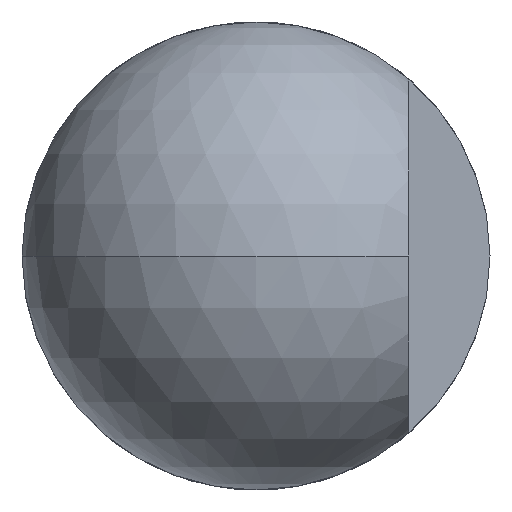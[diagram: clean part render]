
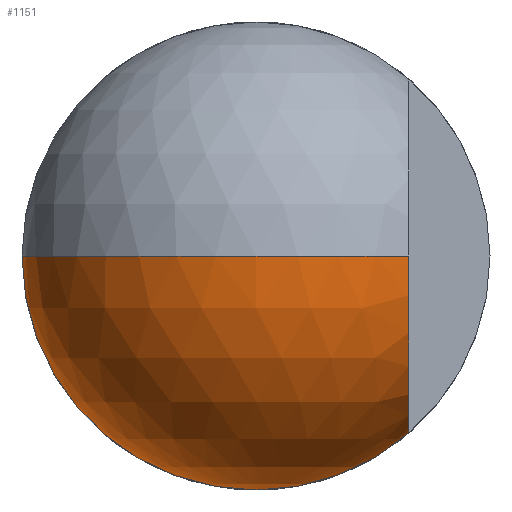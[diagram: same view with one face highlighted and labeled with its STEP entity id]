
A CAD part, front view. The second image highlights one B-rep face of the part: STEP entity #1151.
In plain terms, the highlighted spherical face has radius 6.35 mm.
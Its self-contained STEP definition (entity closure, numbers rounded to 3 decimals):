
#89 = EDGE_CURVE ( 'NONE', #1656, #816, #3098, .T. ) ;
#237 = DIRECTION ( 'NONE',  ( 0., -1., 0. ) ) ;
#371 = ORIENTED_EDGE ( 'NONE', *, *, #2748, .T. ) ;
#445 = EDGE_CURVE ( 'NONE', #861, #1607, #609, .T. ) ;
#483 = EDGE_CURVE ( 'NONE', #1607, #1656, #2835, .T. ) ;
#487 = DIRECTION ( 'NONE',  ( 0., 0., -1. ) ) ;
#507 = DIRECTION ( 'NONE',  ( 1., 0., 0. ) ) ;
#527 = AXIS2_PLACEMENT_3D ( 'NONE', #1936, #237, #487 ) ;
#562 = AXIS2_PLACEMENT_3D ( 'NONE', #2445, #3113, #507 ) ;
#609 = CIRCLE ( 'NONE', #1275, 4.806 ) ;
#756 = CARTESIAN_POINT ( 'NONE',  ( -4.15, 4.806, 78.65 ) ) ;
#757 = FACE_OUTER_BOUND ( 'NONE', #831, .T. ) ;
#766 = CARTESIAN_POINT ( 'NONE',  ( 0., 0., 78.65 ) ) ;
#816 = VERTEX_POINT ( 'NONE', #3118 ) ;
#831 = EDGE_LOOP ( 'NONE', ( #1650, #371, #2429, #2106 ) ) ;
#861 = VERTEX_POINT ( 'NONE', #2172 ) ;
#873 = AXIS2_PLACEMENT_3D ( 'NONE', #1344, #1155, #2309 ) ;
#1151 = ADVANCED_FACE ( 'NONE', ( #757 ), #2690, .T. ) ;
#1155 = DIRECTION ( 'NONE',  ( 0., 1., 0. ) ) ;
#1275 = AXIS2_PLACEMENT_3D ( 'NONE', #2906, #2681, #2240 ) ;
#1300 = CARTESIAN_POINT ( 'NONE',  ( 6.35, 0., 78.65 ) ) ;
#1344 = CARTESIAN_POINT ( 'NONE',  ( 0., 0., 78.65 ) ) ;
#1453 = CIRCLE ( 'NONE', #873, 6.35 ) ;
#1486 = AXIS2_PLACEMENT_3D ( 'NONE', #766, #2422, #1738 ) ;
#1607 = VERTEX_POINT ( 'NONE', #756 ) ;
#1650 = ORIENTED_EDGE ( 'NONE', *, *, #445, .F. ) ;
#1656 = VERTEX_POINT ( 'NONE', #1300 ) ;
#1738 = DIRECTION ( 'NONE',  ( -1., 0., 0. ) ) ;
#1936 = CARTESIAN_POINT ( 'NONE',  ( 0., 0., 78.65 ) ) ;
#2106 = ORIENTED_EDGE ( 'NONE', *, *, #483, .F. ) ;
#2172 = CARTESIAN_POINT ( 'NONE',  ( -4.15, 0., 83.456 ) ) ;
#2240 = DIRECTION ( 'NONE',  ( 0., -1., 0. ) ) ;
#2309 = DIRECTION ( 'NONE',  ( -1., 0., 0. ) ) ;
#2422 = DIRECTION ( 'NONE',  ( 0., 0., -1. ) ) ;
#2429 = ORIENTED_EDGE ( 'NONE', *, *, #89, .F. ) ;
#2445 = CARTESIAN_POINT ( 'NONE',  ( 0., 0., 78.65 ) ) ;
#2681 = DIRECTION ( 'NONE',  ( -1., 0., 0. ) ) ;
#2690 = SPHERICAL_SURFACE ( 'NONE', #562, 6.35 ) ;
#2748 = EDGE_CURVE ( 'NONE', #861, #816, #1453, .T. ) ;
#2835 = CIRCLE ( 'NONE', #1486, 6.35 ) ;
#2906 = CARTESIAN_POINT ( 'NONE',  ( -4.15, 0., 78.65 ) ) ;
#3098 = CIRCLE ( 'NONE', #527, 6.35 ) ;
#3113 = DIRECTION ( 'NONE',  ( 0., 1., 0. ) ) ;
#3118 = CARTESIAN_POINT ( 'NONE',  ( 0., 0., 85. ) ) ;
